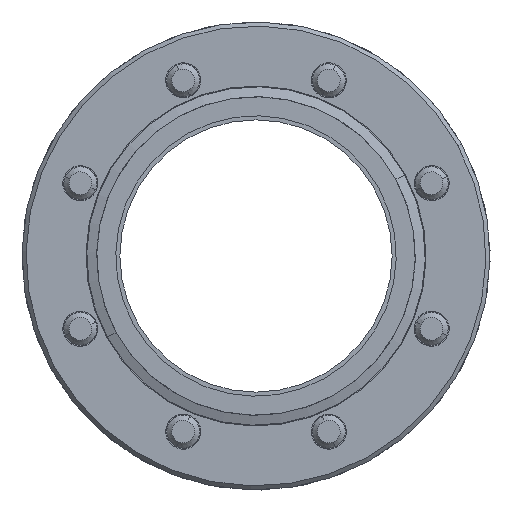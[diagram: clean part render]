
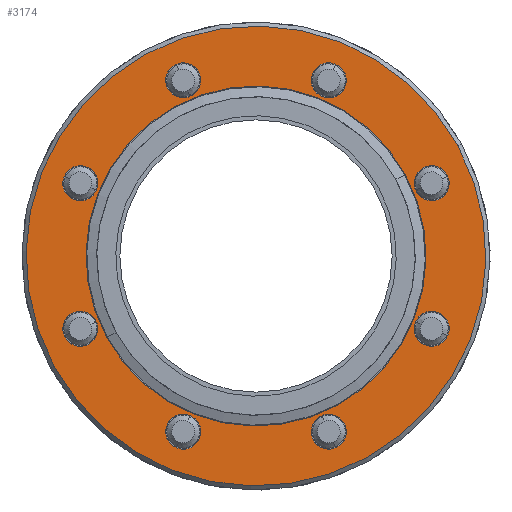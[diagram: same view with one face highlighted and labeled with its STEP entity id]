
A CAD part, left-side view. The second image highlights one B-rep face of the part: STEP entity #3174.
In plain terms, the highlighted planar face has unit normal (-1, 0, 0) as drawn and (1, 0, 0) by its records, which use the part's own axes.
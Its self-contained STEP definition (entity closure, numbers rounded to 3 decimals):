
#2561=AXIS2_PLACEMENT_3D('Circle Axis2P3D',#2559,#2560,$) ;
#2578=AXIS2_PLACEMENT_3D('Circle Axis2P3D',#2576,#2577,$) ;
#2687=AXIS2_PLACEMENT_3D('Circle Axis2P3D',#2685,#2686,$) ;
#2706=AXIS2_PLACEMENT_3D('Circle Axis2P3D',#2704,#2705,$) ;
#2746=AXIS2_PLACEMENT_3D('Circle Axis2P3D',#2744,#2745,$) ;
#2763=AXIS2_PLACEMENT_3D('Circle Axis2P3D',#2761,#2762,$) ;
#2803=AXIS2_PLACEMENT_3D('Circle Axis2P3D',#2801,#2802,$) ;
#2820=AXIS2_PLACEMENT_3D('Circle Axis2P3D',#2818,#2819,$) ;
#2860=AXIS2_PLACEMENT_3D('Circle Axis2P3D',#2858,#2859,$) ;
#2877=AXIS2_PLACEMENT_3D('Circle Axis2P3D',#2875,#2876,$) ;
#2917=AXIS2_PLACEMENT_3D('Circle Axis2P3D',#2915,#2916,$) ;
#2934=AXIS2_PLACEMENT_3D('Circle Axis2P3D',#2932,#2933,$) ;
#2974=AXIS2_PLACEMENT_3D('Circle Axis2P3D',#2972,#2973,$) ;
#2991=AXIS2_PLACEMENT_3D('Circle Axis2P3D',#2989,#2990,$) ;
#3031=AXIS2_PLACEMENT_3D('Circle Axis2P3D',#3029,#3030,$) ;
#3048=AXIS2_PLACEMENT_3D('Circle Axis2P3D',#3046,#3047,$) ;
#3088=AXIS2_PLACEMENT_3D('Circle Axis2P3D',#3086,#3087,$) ;
#3105=AXIS2_PLACEMENT_3D('Circle Axis2P3D',#3103,#3104,$) ;
#3118=AXIS2_PLACEMENT_3D('Plane Axis2P3D',#3115,#3116,#3117) ;
#3122=AXIS2_PLACEMENT_3D('Circle Axis2P3D',#3120,#3121,$) ;
#3131=AXIS2_PLACEMENT_3D('Circle Axis2P3D',#3129,#3130,$) ;
#2542=CARTESIAN_POINT('Vertex',(0.,38.861,19.679)) ;
#2556=CARTESIAN_POINT('Vertex',(0.,46.321,15.604)) ;
#2559=CARTESIAN_POINT('Axis2P3D Location',(0.,42.591,17.642)) ;
#2576=CARTESIAN_POINT('Axis2P3D Location',(0.,42.591,17.642)) ;
#2682=CARTESIAN_POINT('Vertex',(0.,-36.178,-19.764)) ;
#2685=CARTESIAN_POINT('Axis2P3D Location',(0.,0.,0.)) ;
#2689=CARTESIAN_POINT('Vertex',(0.,36.178,19.764)) ;
#2704=CARTESIAN_POINT('Axis2P3D Location',(0.,0.,0.)) ;
#2727=CARTESIAN_POINT('Vertex',(0.,19.679,-38.861)) ;
#2741=CARTESIAN_POINT('Vertex',(0.,15.604,-46.321)) ;
#2744=CARTESIAN_POINT('Axis2P3D Location',(0.,17.642,-42.591)) ;
#2761=CARTESIAN_POINT('Axis2P3D Location',(0.,17.642,-42.591)) ;
#2784=CARTESIAN_POINT('Vertex',(0.,-13.564,-41.394)) ;
#2798=CARTESIAN_POINT('Vertex',(0.,-21.72,-43.787)) ;
#2801=CARTESIAN_POINT('Axis2P3D Location',(0.,-17.642,-42.591)) ;
#2818=CARTESIAN_POINT('Axis2P3D Location',(0.,-17.642,-42.591)) ;
#2841=CARTESIAN_POINT('Vertex',(0.,-41.394,13.564)) ;
#2855=CARTESIAN_POINT('Vertex',(0.,-43.787,21.72)) ;
#2858=CARTESIAN_POINT('Axis2P3D Location',(0.,-42.591,17.642)) ;
#2875=CARTESIAN_POINT('Axis2P3D Location',(0.,-42.591,17.642)) ;
#2898=CARTESIAN_POINT('Vertex',(0.,-19.679,38.861)) ;
#2912=CARTESIAN_POINT('Vertex',(0.,-15.604,46.321)) ;
#2915=CARTESIAN_POINT('Axis2P3D Location',(0.,-17.642,42.591)) ;
#2932=CARTESIAN_POINT('Axis2P3D Location',(0.,-17.642,42.591)) ;
#2955=CARTESIAN_POINT('Vertex',(0.,41.394,-13.564)) ;
#2969=CARTESIAN_POINT('Vertex',(0.,43.787,-21.72)) ;
#2972=CARTESIAN_POINT('Axis2P3D Location',(0.,42.591,-17.642)) ;
#2989=CARTESIAN_POINT('Axis2P3D Location',(0.,42.591,-17.642)) ;
#3012=CARTESIAN_POINT('Vertex',(0.,-38.861,-19.679)) ;
#3026=CARTESIAN_POINT('Vertex',(0.,-46.321,-15.604)) ;
#3029=CARTESIAN_POINT('Axis2P3D Location',(0.,-42.591,-17.642)) ;
#3046=CARTESIAN_POINT('Axis2P3D Location',(0.,-42.591,-17.642)) ;
#3069=CARTESIAN_POINT('Vertex',(0.,13.564,41.394)) ;
#3083=CARTESIAN_POINT('Vertex',(0.,21.72,43.787)) ;
#3086=CARTESIAN_POINT('Axis2P3D Location',(0.,17.642,42.591)) ;
#3103=CARTESIAN_POINT('Axis2P3D Location',(0.,17.642,42.591)) ;
#3115=CARTESIAN_POINT('Axis2P3D Location',(0.,56.75,0.)) ;
#3120=CARTESIAN_POINT('Axis2P3D Location',(0.,0.,0.)) ;
#3124=CARTESIAN_POINT('Vertex',(0.,-48.925,-26.728)) ;
#3126=CARTESIAN_POINT('Vertex',(0.,48.925,26.728)) ;
#3129=CARTESIAN_POINT('Axis2P3D Location',(0.,0.,0.)) ;
#2560=DIRECTION('Axis2P3D Direction',(-1.,0.,-0.)) ;
#2577=DIRECTION('Axis2P3D Direction',(-1.,0.,-0.)) ;
#2686=DIRECTION('Axis2P3D Direction',(1.,0.,0.)) ;
#2705=DIRECTION('Axis2P3D Direction',(1.,0.,0.)) ;
#2745=DIRECTION('Axis2P3D Direction',(-1.,0.,-0.)) ;
#2762=DIRECTION('Axis2P3D Direction',(-1.,0.,-0.)) ;
#2802=DIRECTION('Axis2P3D Direction',(-1.,-0.,0.)) ;
#2819=DIRECTION('Axis2P3D Direction',(-1.,-0.,0.)) ;
#2859=DIRECTION('Axis2P3D Direction',(-1.,0.,0.)) ;
#2876=DIRECTION('Axis2P3D Direction',(-1.,0.,0.)) ;
#2916=DIRECTION('Axis2P3D Direction',(-1.,0.,0.)) ;
#2933=DIRECTION('Axis2P3D Direction',(-1.,0.,0.)) ;
#2973=DIRECTION('Axis2P3D Direction',(-1.,0.,-0.)) ;
#2990=DIRECTION('Axis2P3D Direction',(-1.,0.,-0.)) ;
#3030=DIRECTION('Axis2P3D Direction',(-1.,-0.,0.)) ;
#3047=DIRECTION('Axis2P3D Direction',(-1.,-0.,0.)) ;
#3087=DIRECTION('Axis2P3D Direction',(-1.,0.,0.)) ;
#3104=DIRECTION('Axis2P3D Direction',(-1.,0.,0.)) ;
#3116=DIRECTION('Axis2P3D Direction',(1.,0.,0.)) ;
#3117=DIRECTION('Axis2P3D XDirection',(0.,1.,0.)) ;
#3121=DIRECTION('Axis2P3D Direction',(1.,0.,0.)) ;
#3130=DIRECTION('Axis2P3D Direction',(1.,0.,0.)) ;
#3135=ORIENTED_EDGE('',*,*,#3128,.T.) ;
#3136=ORIENTED_EDGE('',*,*,#3133,.T.) ;
#3139=ORIENTED_EDGE('',*,*,#2580,.F.) ;
#3140=ORIENTED_EDGE('',*,*,#2563,.F.) ;
#3143=ORIENTED_EDGE('',*,*,#2708,.F.) ;
#3144=ORIENTED_EDGE('',*,*,#2691,.F.) ;
#3147=ORIENTED_EDGE('',*,*,#3090,.F.) ;
#3148=ORIENTED_EDGE('',*,*,#3107,.F.) ;
#3151=ORIENTED_EDGE('',*,*,#2919,.F.) ;
#3152=ORIENTED_EDGE('',*,*,#2936,.F.) ;
#3155=ORIENTED_EDGE('',*,*,#2862,.F.) ;
#3156=ORIENTED_EDGE('',*,*,#2879,.F.) ;
#3159=ORIENTED_EDGE('',*,*,#3033,.F.) ;
#3160=ORIENTED_EDGE('',*,*,#3050,.F.) ;
#3163=ORIENTED_EDGE('',*,*,#2805,.F.) ;
#3164=ORIENTED_EDGE('',*,*,#2822,.F.) ;
#3167=ORIENTED_EDGE('',*,*,#2748,.F.) ;
#3168=ORIENTED_EDGE('',*,*,#2765,.F.) ;
#3171=ORIENTED_EDGE('',*,*,#2976,.F.) ;
#3172=ORIENTED_EDGE('',*,*,#2993,.F.) ;
#3141=FACE_BOUND('',#3138,.T.) ;
#3145=FACE_BOUND('',#3142,.T.) ;
#3149=FACE_BOUND('',#3146,.T.) ;
#3153=FACE_BOUND('',#3150,.T.) ;
#3157=FACE_BOUND('',#3154,.T.) ;
#3161=FACE_BOUND('',#3158,.T.) ;
#3165=FACE_BOUND('',#3162,.T.) ;
#3169=FACE_BOUND('',#3166,.T.) ;
#3173=FACE_BOUND('',#3170,.T.) ;
#3174=ADVANCED_FACE('Hauptk\X2\00F6\X0\rper',(#3137,#3141,#3145,#3149,#3153,#3157,#3161,#3165,#3169,#3173),#3119,.T.) ;
#2562=CIRCLE('generated circle',#2561,4.25) ;
#2579=CIRCLE('generated circle',#2578,4.25) ;
#2688=CIRCLE('generated circle',#2687,41.225) ;
#2707=CIRCLE('generated circle',#2706,41.225) ;
#2747=CIRCLE('generated circle',#2746,4.25) ;
#2764=CIRCLE('generated circle',#2763,4.25) ;
#2804=CIRCLE('generated circle',#2803,4.25) ;
#2821=CIRCLE('generated circle',#2820,4.25) ;
#2861=CIRCLE('generated circle',#2860,4.25) ;
#2878=CIRCLE('generated circle',#2877,4.25) ;
#2918=CIRCLE('generated circle',#2917,4.25) ;
#2935=CIRCLE('generated circle',#2934,4.25) ;
#2975=CIRCLE('generated circle',#2974,4.25) ;
#2992=CIRCLE('generated circle',#2991,4.25) ;
#3032=CIRCLE('generated circle',#3031,4.25) ;
#3049=CIRCLE('generated circle',#3048,4.25) ;
#3089=CIRCLE('generated circle',#3088,4.25) ;
#3106=CIRCLE('generated circle',#3105,4.25) ;
#3123=CIRCLE('generated circle',#3122,55.75) ;
#3132=CIRCLE('generated circle',#3131,55.75) ;
#2563=EDGE_CURVE('',#2557,#2543,#2562,.F.) ;
#2580=EDGE_CURVE('',#2543,#2557,#2579,.F.) ;
#2691=EDGE_CURVE('',#2683,#2690,#2688,.T.) ;
#2708=EDGE_CURVE('',#2690,#2683,#2707,.T.) ;
#2748=EDGE_CURVE('',#2742,#2728,#2747,.F.) ;
#2765=EDGE_CURVE('',#2728,#2742,#2764,.F.) ;
#2805=EDGE_CURVE('',#2799,#2785,#2804,.F.) ;
#2822=EDGE_CURVE('',#2785,#2799,#2821,.F.) ;
#2862=EDGE_CURVE('',#2856,#2842,#2861,.F.) ;
#2879=EDGE_CURVE('',#2842,#2856,#2878,.F.) ;
#2919=EDGE_CURVE('',#2913,#2899,#2918,.F.) ;
#2936=EDGE_CURVE('',#2899,#2913,#2935,.F.) ;
#2976=EDGE_CURVE('',#2970,#2956,#2975,.F.) ;
#2993=EDGE_CURVE('',#2956,#2970,#2992,.F.) ;
#3033=EDGE_CURVE('',#3027,#3013,#3032,.F.) ;
#3050=EDGE_CURVE('',#3013,#3027,#3049,.F.) ;
#3090=EDGE_CURVE('',#3084,#3070,#3089,.F.) ;
#3107=EDGE_CURVE('',#3070,#3084,#3106,.F.) ;
#3128=EDGE_CURVE('',#3125,#3127,#3123,.T.) ;
#3133=EDGE_CURVE('',#3127,#3125,#3132,.T.) ;
#3134=EDGE_LOOP('',(#3135,#3136)) ;
#3138=EDGE_LOOP('',(#3139,#3140)) ;
#3142=EDGE_LOOP('',(#3143,#3144)) ;
#3146=EDGE_LOOP('',(#3147,#3148)) ;
#3150=EDGE_LOOP('',(#3151,#3152)) ;
#3154=EDGE_LOOP('',(#3155,#3156)) ;
#3158=EDGE_LOOP('',(#3159,#3160)) ;
#3162=EDGE_LOOP('',(#3163,#3164)) ;
#3166=EDGE_LOOP('',(#3167,#3168)) ;
#3170=EDGE_LOOP('',(#3171,#3172)) ;
#3137=FACE_OUTER_BOUND('',#3134,.T.) ;
#3119=PLANE('',#3118) ;
#2543=VERTEX_POINT('',#2542) ;
#2557=VERTEX_POINT('',#2556) ;
#2683=VERTEX_POINT('',#2682) ;
#2690=VERTEX_POINT('',#2689) ;
#2728=VERTEX_POINT('',#2727) ;
#2742=VERTEX_POINT('',#2741) ;
#2785=VERTEX_POINT('',#2784) ;
#2799=VERTEX_POINT('',#2798) ;
#2842=VERTEX_POINT('',#2841) ;
#2856=VERTEX_POINT('',#2855) ;
#2899=VERTEX_POINT('',#2898) ;
#2913=VERTEX_POINT('',#2912) ;
#2956=VERTEX_POINT('',#2955) ;
#2970=VERTEX_POINT('',#2969) ;
#3013=VERTEX_POINT('',#3012) ;
#3027=VERTEX_POINT('',#3026) ;
#3070=VERTEX_POINT('',#3069) ;
#3084=VERTEX_POINT('',#3083) ;
#3125=VERTEX_POINT('',#3124) ;
#3127=VERTEX_POINT('',#3126) ;
